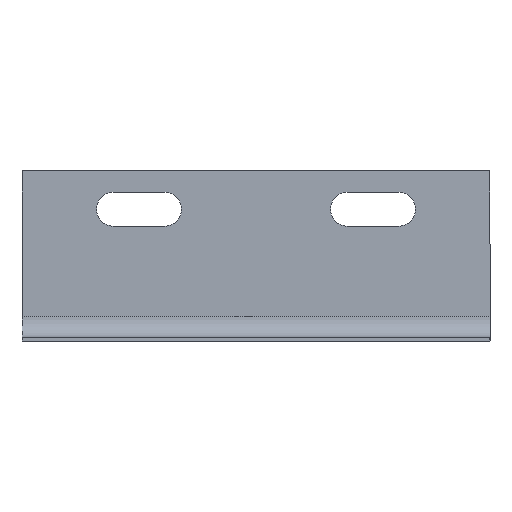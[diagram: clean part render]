
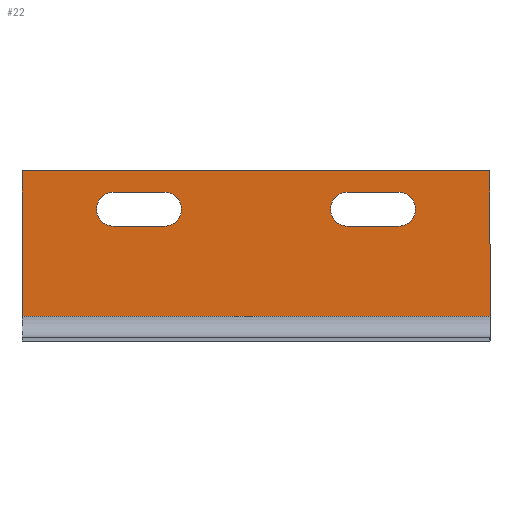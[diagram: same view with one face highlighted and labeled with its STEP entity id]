
A CAD part, top view. The second image highlights one B-rep face of the part: STEP entity #22.
In plain terms, the highlighted planar face has unit normal (0, 0, 1).
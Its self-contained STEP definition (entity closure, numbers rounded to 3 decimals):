
#3 = DIRECTION ( 'NONE',  ( 0., 0., -1. ) ) ;
#5 = EDGE_CURVE ( 'NONE', #720, #226, #252, .T. ) ;
#11 = CARTESIAN_POINT ( 'NONE',  ( 55., 25.5, 0.8 ) ) ;
#22 = ADVANCED_FACE ( 'NONE', ( #313, #256, #71 ), #379, .F. ) ;
#29 = CARTESIAN_POINT ( 'NONE',  ( -55., -8.7, 0.8 ) ) ;
#32 = DIRECTION ( 'NONE',  ( -1., 0., 0. ) ) ;
#37 = EDGE_CURVE ( 'NONE', #151, #359, #125, .T. ) ;
#47 = CARTESIAN_POINT ( 'NONE',  ( -33.5, 16.5, 0.8 ) ) ;
#53 = VERTEX_POINT ( 'NONE', #430 ) ;
#64 = CIRCLE ( 'NONE', #757, 4. ) ;
#71 = FACE_BOUND ( 'NONE', #622, .T. ) ;
#76 = EDGE_CURVE ( 'NONE', #53, #478, #356, .T. ) ;
#78 = CARTESIAN_POINT ( 'NONE',  ( -21.5, 16.5, 0.8 ) ) ;
#83 = CARTESIAN_POINT ( 'NONE',  ( 21.5, 20.5, 0.8 ) ) ;
#87 = CARTESIAN_POINT ( 'NONE',  ( 33.5, 12.5, 0.8 ) ) ;
#95 = ORIENTED_EDGE ( 'NONE', *, *, #76, .T. ) ;
#99 = ORIENTED_EDGE ( 'NONE', *, *, #773, .T. ) ;
#101 = LINE ( 'NONE', #87, #533 ) ;
#110 = VECTOR ( 'NONE', #521, 1000. ) ;
#120 = EDGE_CURVE ( 'NONE', #226, #529, #348, .T. ) ;
#121 = VERTEX_POINT ( 'NONE', #638 ) ;
#125 = LINE ( 'NONE', #435, #768 ) ;
#126 = VECTOR ( 'NONE', #553, 1000. ) ;
#139 = LINE ( 'NONE', #383, #126 ) ;
#143 = DIRECTION ( 'NONE',  ( 0., 0., -1. ) ) ;
#146 = CARTESIAN_POINT ( 'NONE',  ( 55., -8.7, 0.8 ) ) ;
#151 = VERTEX_POINT ( 'NONE', #572 ) ;
#163 = AXIS2_PLACEMENT_3D ( 'NONE', #600, #371, #487 ) ;
#170 = CIRCLE ( 'NONE', #322, 4. ) ;
#176 = EDGE_LOOP ( 'NONE', ( #99, #309, #269, #179 ) ) ;
#178 = AXIS2_PLACEMENT_3D ( 'NONE', #550, #489, #609 ) ;
#179 = ORIENTED_EDGE ( 'NONE', *, *, #376, .T. ) ;
#185 = ORIENTED_EDGE ( 'NONE', *, *, #298, .F. ) ;
#195 = VECTOR ( 'NONE', #715, 1000. ) ;
#196 = CARTESIAN_POINT ( 'NONE',  ( -55., -25.5, 0.8 ) ) ;
#201 = DIRECTION ( 'NONE',  ( 0., -1., 0. ) ) ;
#220 = ORIENTED_EDGE ( 'NONE', *, *, #453, .T. ) ;
#226 = VERTEX_POINT ( 'NONE', #549 ) ;
#240 = LINE ( 'NONE', #719, #195 ) ;
#246 = EDGE_LOOP ( 'NONE', ( #412, #770, #583, #712, #185 ) ) ;
#247 = ORIENTED_EDGE ( 'NONE', *, *, #274, .T. ) ;
#249 = DIRECTION ( 'NONE',  ( 0., 0., -1. ) ) ;
#252 = CIRCLE ( 'NONE', #178, 4. ) ;
#256 = FACE_BOUND ( 'NONE', #246, .T. ) ;
#261 = CARTESIAN_POINT ( 'NONE',  ( 21.5, 12.5, 0.8 ) ) ;
#262 = EDGE_CURVE ( 'NONE', #297, #280, #446, .T. ) ;
#269 = ORIENTED_EDGE ( 'NONE', *, *, #262, .T. ) ;
#274 = EDGE_CURVE ( 'NONE', #716, #53, #139, .T. ) ;
#280 = VERTEX_POINT ( 'NONE', #443 ) ;
#297 = VERTEX_POINT ( 'NONE', #146 ) ;
#298 = EDGE_CURVE ( 'NONE', #359, #720, #64, .T. ) ;
#306 = ORIENTED_EDGE ( 'NONE', *, *, #620, .T. ) ;
#309 = ORIENTED_EDGE ( 'NONE', *, *, #701, .T. ) ;
#312 = CIRCLE ( 'NONE', #626, 4. ) ;
#313 = FACE_OUTER_BOUND ( 'NONE', #176, .T. ) ;
#322 = AXIS2_PLACEMENT_3D ( 'NONE', #47, #568, #32 ) ;
#327 = DIRECTION ( 'NONE',  ( 0., 0., 1. ) ) ;
#332 = AXIS2_PLACEMENT_3D ( 'NONE', #596, #3, #483 ) ;
#336 = DIRECTION ( 'NONE',  ( -1., 0., 0. ) ) ;
#337 = LINE ( 'NONE', #570, #603 ) ;
#348 = LINE ( 'NONE', #515, #110 ) ;
#356 = CIRCLE ( 'NONE', #163, 4. ) ;
#357 = CARTESIAN_POINT ( 'NONE',  ( -21.5, 12.5, 0.8 ) ) ;
#359 = VERTEX_POINT ( 'NONE', #357 ) ;
#371 = DIRECTION ( 'NONE',  ( 0., 0., -1. ) ) ;
#376 = EDGE_CURVE ( 'NONE', #280, #477, #240, .T. ) ;
#379 = PLANE ( 'NONE',  #465 ) ;
#383 = CARTESIAN_POINT ( 'NONE',  ( 33.5, 20.5, 0.8 ) ) ;
#412 = ORIENTED_EDGE ( 'NONE', *, *, #37, .F. ) ;
#430 = CARTESIAN_POINT ( 'NONE',  ( 33.5, 20.5, 0.8 ) ) ;
#435 = CARTESIAN_POINT ( 'NONE',  ( -33.5, 12.5, 0.8 ) ) ;
#443 = CARTESIAN_POINT ( 'NONE',  ( 55., 25.5, 0.8 ) ) ;
#446 = LINE ( 'NONE', #733, #764 ) ;
#453 = EDGE_CURVE ( 'NONE', #478, #121, #692, .T. ) ;
#460 = CARTESIAN_POINT ( 'NONE',  ( -17.5, 16.5, 0.8 ) ) ;
#465 = AXIS2_PLACEMENT_3D ( 'NONE', #11, #249, #545 ) ;
#472 = VECTOR ( 'NONE', #201, 1000. ) ;
#477 = VERTEX_POINT ( 'NONE', #705 ) ;
#478 = VERTEX_POINT ( 'NONE', #577 ) ;
#483 = DIRECTION ( 'NONE',  ( 1., 0., 0. ) ) ;
#485 = DIRECTION ( 'NONE',  ( 1., 0., 0. ) ) ;
#487 = DIRECTION ( 'NONE',  ( 1., 0., 0. ) ) ;
#489 = DIRECTION ( 'NONE',  ( 0., 0., 1. ) ) ;
#497 = DIRECTION ( 'NONE',  ( 0., 1., 0. ) ) ;
#515 = CARTESIAN_POINT ( 'NONE',  ( -33.5, 20.5, 0.8 ) ) ;
#521 = DIRECTION ( 'NONE',  ( -1., 0., 0. ) ) ;
#529 = VERTEX_POINT ( 'NONE', #691 ) ;
#533 = VECTOR ( 'NONE', #336, 1000. ) ;
#545 = DIRECTION ( 'NONE',  ( -1., 0., 0. ) ) ;
#549 = CARTESIAN_POINT ( 'NONE',  ( -21.5, 20.5, 0.8 ) ) ;
#550 = CARTESIAN_POINT ( 'NONE',  ( -21.5, 16.5, 0.8 ) ) ;
#553 = DIRECTION ( 'NONE',  ( 1., 0., 0. ) ) ;
#568 = DIRECTION ( 'NONE',  ( 0., 0., 1. ) ) ;
#570 = CARTESIAN_POINT ( 'NONE',  ( 55., -8.7, 0.8 ) ) ;
#572 = CARTESIAN_POINT ( 'NONE',  ( -33.5, 12.5, 0.8 ) ) ;
#577 = CARTESIAN_POINT ( 'NONE',  ( 37.5, 16.5, 0.8 ) ) ;
#579 = DIRECTION ( 'NONE',  ( 1., 0., 0. ) ) ;
#583 = ORIENTED_EDGE ( 'NONE', *, *, #120, .F. ) ;
#592 = EDGE_CURVE ( 'NONE', #121, #744, #101, .T. ) ;
#596 = CARTESIAN_POINT ( 'NONE',  ( 33.5, 16.5, 0.8 ) ) ;
#600 = CARTESIAN_POINT ( 'NONE',  ( 33.5, 16.5, 0.8 ) ) ;
#601 = EDGE_CURVE ( 'NONE', #529, #151, #170, .T. ) ;
#603 = VECTOR ( 'NONE', #579, 1000. ) ;
#609 = DIRECTION ( 'NONE',  ( 1., 0., 0. ) ) ;
#620 = EDGE_CURVE ( 'NONE', #744, #716, #312, .T. ) ;
#622 = EDGE_LOOP ( 'NONE', ( #95, #220, #655, #306, #247 ) ) ;
#626 = AXIS2_PLACEMENT_3D ( 'NONE', #747, #143, #697 ) ;
#638 = CARTESIAN_POINT ( 'NONE',  ( 33.5, 12.5, 0.8 ) ) ;
#649 = VERTEX_POINT ( 'NONE', #29 ) ;
#655 = ORIENTED_EDGE ( 'NONE', *, *, #592, .T. ) ;
#671 = DIRECTION ( 'NONE',  ( 1., 0., 0. ) ) ;
#691 = CARTESIAN_POINT ( 'NONE',  ( -33.5, 20.5, 0.8 ) ) ;
#692 = CIRCLE ( 'NONE', #332, 4. ) ;
#697 = DIRECTION ( 'NONE',  ( -1., 0., 0. ) ) ;
#701 = EDGE_CURVE ( 'NONE', #649, #297, #337, .T. ) ;
#705 = CARTESIAN_POINT ( 'NONE',  ( -55., 25.5, 0.8 ) ) ;
#712 = ORIENTED_EDGE ( 'NONE', *, *, #5, .F. ) ;
#715 = DIRECTION ( 'NONE',  ( -1., 0., 0. ) ) ;
#716 = VERTEX_POINT ( 'NONE', #83 ) ;
#719 = CARTESIAN_POINT ( 'NONE',  ( -55., 25.5, 0.8 ) ) ;
#720 = VERTEX_POINT ( 'NONE', #460 ) ;
#730 = LINE ( 'NONE', #196, #472 ) ;
#733 = CARTESIAN_POINT ( 'NONE',  ( 55., -25.5, 0.8 ) ) ;
#744 = VERTEX_POINT ( 'NONE', #261 ) ;
#747 = CARTESIAN_POINT ( 'NONE',  ( 21.5, 16.5, 0.8 ) ) ;
#757 = AXIS2_PLACEMENT_3D ( 'NONE', #78, #327, #671 ) ;
#764 = VECTOR ( 'NONE', #497, 1000. ) ;
#768 = VECTOR ( 'NONE', #485, 1000. ) ;
#770 = ORIENTED_EDGE ( 'NONE', *, *, #601, .F. ) ;
#773 = EDGE_CURVE ( 'NONE', #477, #649, #730, .T. ) ;
